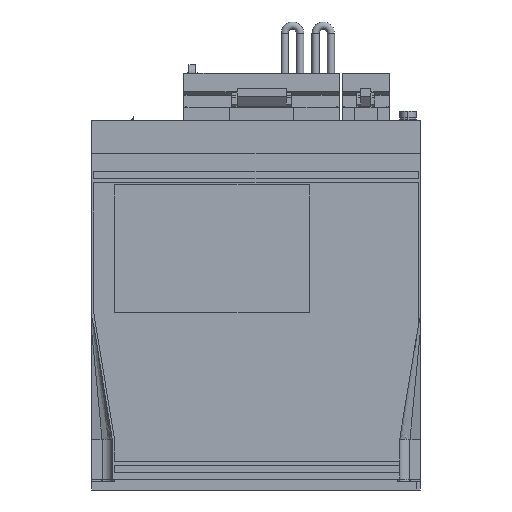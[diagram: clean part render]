
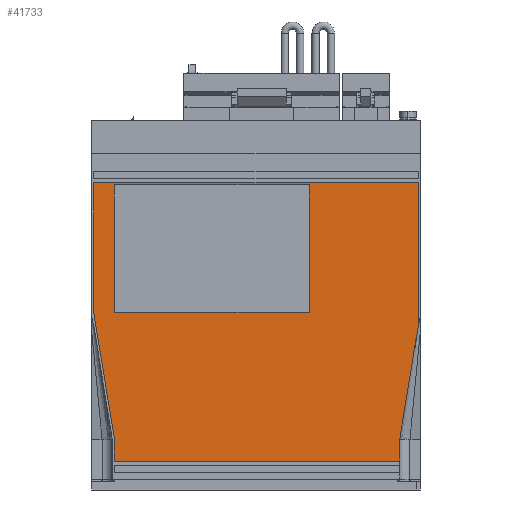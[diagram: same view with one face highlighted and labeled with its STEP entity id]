
A CAD part, left-side view. The second image highlights one B-rep face of the part: STEP entity #41733.
In plain terms, the highlighted planar face has unit normal (-1, 0, 0).
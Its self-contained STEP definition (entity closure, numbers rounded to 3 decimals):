
#10887 = CARTESIAN_POINT ( 'NONE',  ( -5.7, -153.25, 75.306 ) ) ;
#10888 = CARTESIAN_POINT ( 'NONE',  ( -5.7, -145., 24.8 ) ) ;
#10889 = DIRECTION ( 'NONE',  ( 0., -0.161, 0.987 ) ) ;
#10890 = VECTOR ( 'NONE', #10889, 1000. ) ;
#10891 = CARTESIAN_POINT ( 'NONE',  ( -5.7, -145., 24.8 ) ) ;
#10892 = LINE ( 'NONE', #10891, #10890 ) ;
#10994 = B_SPLINE_CURVE_WITH_KNOTS ( 'NONE', 3,
 ( #11025, #11024, #11023, #11022 ),
 .UNSPECIFIED., .F., .F.,
 ( 4, 4 ),
 ( 0., 0.004 ),
 .UNSPECIFIED. ) ;
#11022 = CARTESIAN_POINT ( 'NONE',  ( -5.7, -154., 79.394 ) ) ;
#11023 = CARTESIAN_POINT ( 'NONE',  ( -5.7, -153.716, 78.038 ) ) ;
#11024 = CARTESIAN_POINT ( 'NONE',  ( -5.7, -153.473, 76.674 ) ) ;
#11025 = CARTESIAN_POINT ( 'NONE',  ( -5.7, -153.25, 75.306 ) ) ;
#11027 = CARTESIAN_POINT ( 'NONE',  ( -5.7, -154., 79.394 ) ) ;
#20744 = CARTESIAN_POINT ( 'NONE',  ( -5.7, -145., 14.1 ) ) ;
#20881 = DIRECTION ( 'NONE',  ( 0., 0., -1. ) ) ;
#20882 = VECTOR ( 'NONE', #20881, 1000. ) ;
#20884 = CARTESIAN_POINT ( 'NONE',  ( -5.7, -145., 24.8 ) ) ;
#20885 = LINE ( 'NONE', #20884, #20882 ) ;
#29384 = EDGE_CURVE ( 'NONE', #29385, #29386, #10892, .T. ) ;
#29385 = VERTEX_POINT ( 'NONE', #10888 ) ;
#29386 = VERTEX_POINT ( 'NONE', #10887 ) ;
#29508 = EDGE_CURVE ( 'NONE', #29386, #29509, #10994, .T. ) ;
#29509 = VERTEX_POINT ( 'NONE', #11027 ) ;
#30603 = CARTESIAN_POINT ( 'NONE',  ( -5.7, -6., 24.881 ) ) ;
#30607 = DIRECTION ( 'NONE',  ( 0., 0., -1. ) ) ;
#30609 = VECTOR ( 'NONE', #30607, 1000. ) ;
#30610 = CARTESIAN_POINT ( 'NONE',  ( -5.7, -6., 24.881 ) ) ;
#30611 = LINE ( 'NONE', #30610, #30609 ) ;
#30640 = CARTESIAN_POINT ( 'NONE',  ( -5.7, -6., 14.1 ) ) ;
#30689 = DIRECTION ( 'NONE',  ( 0., -1., 0. ) ) ;
#30691 = VECTOR ( 'NONE', #30689, 1000. ) ;
#30693 = CARTESIAN_POINT ( 'NONE',  ( -5.7, -6., 14.1 ) ) ;
#30694 = LINE ( 'NONE', #30693, #30691 ) ;
#30713 = DIRECTION ( 'NONE',  ( 0., 1., 0. ) ) ;
#30715 = VECTOR ( 'NONE', #30713, 1000. ) ;
#30717 = CARTESIAN_POINT ( 'NONE',  ( -5.7, 4., 149.6 ) ) ;
#30718 = LINE ( 'NONE', #30717, #30715 ) ;
#30725 = CARTESIAN_POINT ( 'NONE',  ( -5.7, 4., 149.6 ) ) ;
#30760 = FACE_OUTER_BOUND ( 'NONE', #41710, .T. ) ;
#30761 = FACE_BOUND ( 'NONE', #41737, .T. ) ;
#30766 = DIRECTION ( 'NONE',  ( 0., 0., -1. ) ) ;
#30767 = VECTOR ( 'NONE', #30766, 1000. ) ;
#30769 = CARTESIAN_POINT ( 'NONE',  ( -5.7, 4., 86.104 ) ) ;
#30771 = LINE ( 'NONE', #30769, #30767 ) ;
#30773 = PLANE ( 'NONE',  #30905 ) ;
#30777 = DIRECTION ( 'NONE',  ( 0., -1., 0. ) ) ;
#30778 = VECTOR ( 'NONE', #30777, 1000. ) ;
#30780 = CARTESIAN_POINT ( 'NONE',  ( -5.7, -154., 86.6 ) ) ;
#30782 = LINE ( 'NONE', #30780, #30778 ) ;
#30812 = DIRECTION ( 'NONE',  ( 0., 0., 1. ) ) ;
#30813 = VECTOR ( 'NONE', #30812, 1000. ) ;
#30815 = CARTESIAN_POINT ( 'NONE',  ( -5.7, -154., 14.1 ) ) ;
#30816 = LINE ( 'NONE', #30815, #30813 ) ;
#30822 = CARTESIAN_POINT ( 'NONE',  ( -5.7, -154., 149.6 ) ) ;
#30838 = CARTESIAN_POINT ( 'NONE',  ( -5.7, 4., 86.104 ) ) ;
#30842 = DIRECTION ( 'NONE',  ( 0., -0.161, -0.987 ) ) ;
#30844 = VECTOR ( 'NONE', #30842, 1000. ) ;
#30845 = CARTESIAN_POINT ( 'NONE',  ( -5.7, 4., 86.104 ) ) ;
#30847 = LINE ( 'NONE', #30845, #30844 ) ;
#30864 = CARTESIAN_POINT ( 'NONE',  ( -5.7, -101., 86.6 ) ) ;
#30866 = DIRECTION ( 'NONE',  ( 0., 0., 1. ) ) ;
#30868 = VECTOR ( 'NONE', #30866, 1000. ) ;
#30869 = CARTESIAN_POINT ( 'NONE',  ( -5.7, -101., 149.6 ) ) ;
#30871 = LINE ( 'NONE', #30869, #30868 ) ;
#30876 = CARTESIAN_POINT ( 'NONE',  ( -5.7, -101., 148.6 ) ) ;
#30879 = DIRECTION ( 'NONE',  ( 0., 1., 0. ) ) ;
#30880 = VECTOR ( 'NONE', #30879, 1000. ) ;
#30882 = CARTESIAN_POINT ( 'NONE',  ( -5.7, -154., 148.6 ) ) ;
#30883 = LINE ( 'NONE', #30882, #30880 ) ;
#30889 = CARTESIAN_POINT ( 'NONE',  ( -5.7, -6., 86.6 ) ) ;
#30891 = CARTESIAN_POINT ( 'NONE',  ( -5.7, -6., 148.6 ) ) ;
#30893 = DIRECTION ( 'NONE',  ( 0., 0., -1. ) ) ;
#30895 = VECTOR ( 'NONE', #30893, 1000. ) ;
#30896 = CARTESIAN_POINT ( 'NONE',  ( -5.7, -6., 149.6 ) ) ;
#30898 = LINE ( 'NONE', #30896, #30895 ) ;
#30901 = DIRECTION ( 'NONE',  ( 0., -1., 0. ) ) ;
#30902 = DIRECTION ( 'NONE',  ( -1., 0., 0. ) ) ;
#30904 = CARTESIAN_POINT ( 'NONE',  ( -5.7, -154., 149.6 ) ) ;
#30905 = AXIS2_PLACEMENT_3D ( 'NONE', #30904, #30902, #30901 ) ;
#36216 = VERTEX_POINT ( 'NONE', #20744 ) ;
#36304 = EDGE_CURVE ( 'NONE', #29385, #36216, #20885, .T. ) ;
#41624 = VERTEX_POINT ( 'NONE', #30640 ) ;
#41642 = EDGE_CURVE ( 'NONE', #41643, #41624, #30611, .T. ) ;
#41643 = VERTEX_POINT ( 'NONE', #30603 ) ;
#41660 = VERTEX_POINT ( 'NONE', #30725 ) ;
#41663 = EDGE_CURVE ( 'NONE', #41691, #41660, #30718, .T. ) ;
#41675 = EDGE_CURVE ( 'NONE', #41624, #36216, #30694, .T. ) ;
#41691 = VERTEX_POINT ( 'NONE', #30822 ) ;
#41695 = EDGE_CURVE ( 'NONE', #29509, #41691, #30816, .T. ) ;
#41706 = ORIENTED_EDGE ( 'NONE', *, *, #41707, .F. ) ;
#41707 = EDGE_CURVE ( 'NONE', #41742, #41752, #30782, .T. ) ;
#41710 = EDGE_LOOP ( 'NONE', ( #41713, #41715, #41716, #41717, #41718, #41720, #41721, #41724, #41830 ) ) ;
#41713 = ORIENTED_EDGE ( 'NONE', *, *, #29384, .T. ) ;
#41715 = ORIENTED_EDGE ( 'NONE', *, *, #29508, .T. ) ;
#41716 = ORIENTED_EDGE ( 'NONE', *, *, #41695, .T. ) ;
#41717 = ORIENTED_EDGE ( 'NONE', *, *, #41663, .T. ) ;
#41718 = ORIENTED_EDGE ( 'NONE', *, *, #41729, .T. ) ;
#41720 = ORIENTED_EDGE ( 'NONE', *, *, #41762, .T. ) ;
#41721 = ORIENTED_EDGE ( 'NONE', *, *, #41642, .T. ) ;
#41724 = ORIENTED_EDGE ( 'NONE', *, *, #41675, .T. ) ;
#41729 = EDGE_CURVE ( 'NONE', #41660, #41763, #30771, .T. ) ;
#41733 = ADVANCED_FACE ( 'NONE', ( #30761, #30760 ), #30773, .T. ) ;
#41737 = EDGE_LOOP ( 'NONE', ( #41738, #41744, #41750, #41706 ) ) ;
#41738 = ORIENTED_EDGE ( 'NONE', *, *, #41739, .F. ) ;
#41739 = EDGE_CURVE ( 'NONE', #41740, #41742, #30898, .T. ) ;
#41740 = VERTEX_POINT ( 'NONE', #30891 ) ;
#41742 = VERTEX_POINT ( 'NONE', #30889 ) ;
#41744 = ORIENTED_EDGE ( 'NONE', *, *, #41746, .F. ) ;
#41746 = EDGE_CURVE ( 'NONE', #41749, #41740, #30883, .T. ) ;
#41749 = VERTEX_POINT ( 'NONE', #30876 ) ;
#41750 = ORIENTED_EDGE ( 'NONE', *, *, #41751, .F. ) ;
#41751 = EDGE_CURVE ( 'NONE', #41752, #41749, #30871, .T. ) ;
#41752 = VERTEX_POINT ( 'NONE', #30864 ) ;
#41762 = EDGE_CURVE ( 'NONE', #41763, #41643, #30847, .T. ) ;
#41763 = VERTEX_POINT ( 'NONE', #30838 ) ;
#41830 = ORIENTED_EDGE ( 'NONE', *, *, #36304, .F. ) ;
